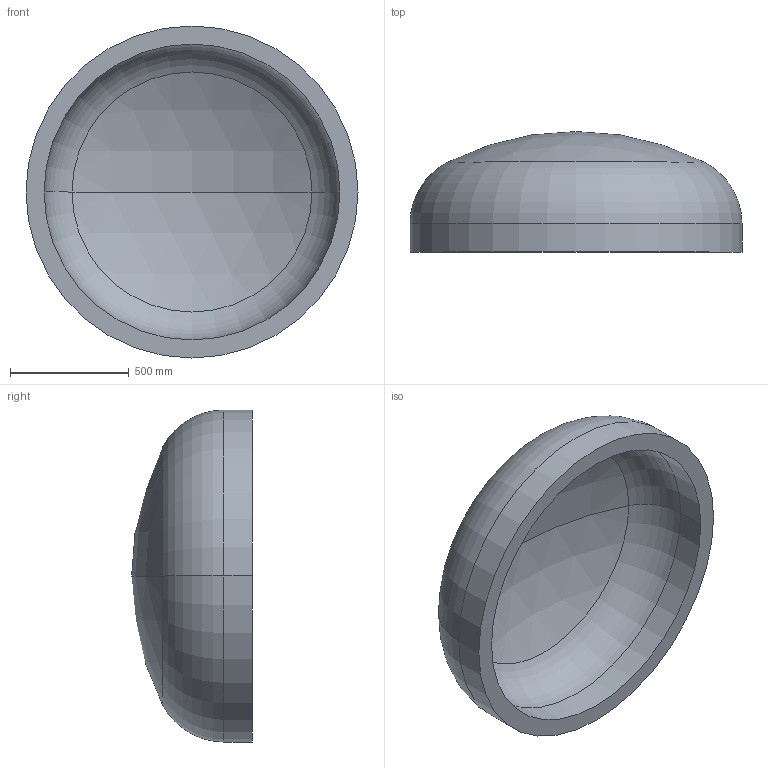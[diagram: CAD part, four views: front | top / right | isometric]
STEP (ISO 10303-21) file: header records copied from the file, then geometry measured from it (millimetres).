
FILE_DESCRIPTION (( 'STEP AP203' ), '1' );
FILE_NAME ('DIN 28013 Korbbogenform_-_Boden DIN 28013 - 1400 x 120 - I - s=76.step', '2016-07-01T10:25:09', ( '' ), ( '' ), 'SwSTEP 2.0', 'SolidWorks 2013', '' );
FILE_SCHEMA (( 'CONFIG_CONTROL_DESIGN' ));
Length unit declared in the file: millimetre
Products named in the file (1): DIN 28013 Korbbogenform_-_Boden DIN 28013 - 1400 x 120 - I - s=76
Bounding box: 1400 x 508.69 x 1400 mm (x, y, z)
Volume: 188999989.6 mm3; surface area: 5301899.6 mm2
Topology: 1 solids, 1 shells, 13 faces, 24 edges, 14 vertices
Faces by surface type: torus 4, cylinder 4, sphere 4, plane 1
Entity records: 407 total; most frequent: DIRECTION 72, CARTESIAN_POINT 52, ORIENTED_EDGE 48, AXIS2_PLACEMENT_3D 34, EDGE_CURVE 24, CIRCLE 20, VERTEX_POINT 14, EDGE_LOOP 14
